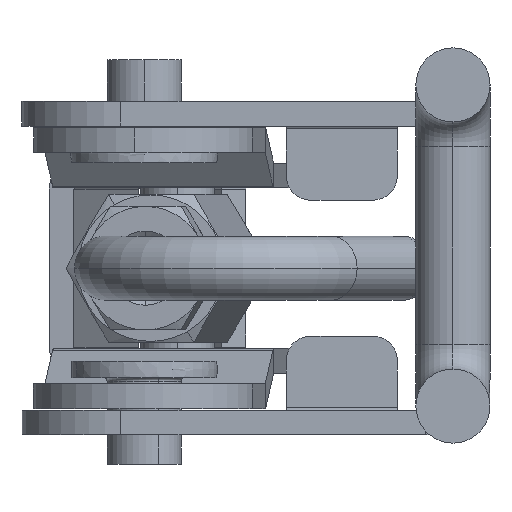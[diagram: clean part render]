
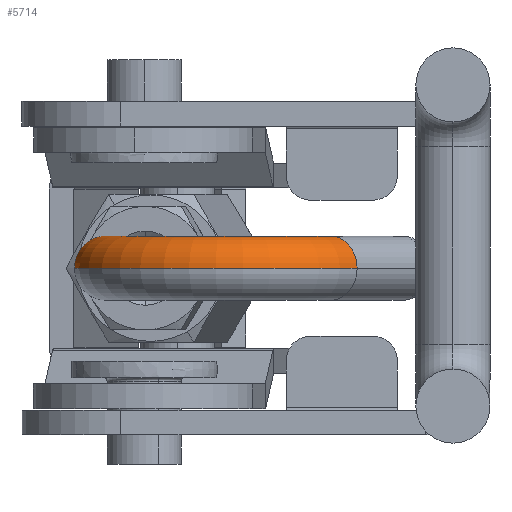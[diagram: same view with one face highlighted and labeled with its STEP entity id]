
A CAD part, left-side view. The second image highlights one B-rep face of the part: STEP entity #5714.
In plain terms, the highlighted toroidal (fillet/blend) face has major radius 10 mm and minor radius 2.6 mm.
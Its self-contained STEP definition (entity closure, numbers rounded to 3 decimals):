
#181 = AXIS2_PLACEMENT_3D ( 'NONE', #5165, #1402, #5813 ) ;
#397 = DIRECTION ( 'NONE',  ( -1., 0., 0. ) ) ;
#529 = CIRCLE ( 'NONE', #4987, 2.6 ) ;
#675 = CARTESIAN_POINT ( 'NONE',  ( 10., 47., 0. ) ) ;
#898 = CARTESIAN_POINT ( 'NONE',  ( 0., 47., -2.6 ) ) ;
#1000 = DIRECTION ( 'NONE',  ( 0.5, -0.866, 0. ) ) ;
#1078 = VERTEX_POINT ( 'NONE', #898 ) ;
#1312 = DIRECTION ( 'NONE',  ( -1., 0., 0. ) ) ;
#1402 = DIRECTION ( 'NONE',  ( 0., 1., 0. ) ) ;
#1524 = CIRCLE ( 'NONE', #6224, 12.6 ) ;
#1651 = VERTEX_POINT ( 'NONE', #3855 ) ;
#1960 = EDGE_CURVE ( 'NONE', #1078, #6969, #2938, .T. ) ;
#2630 = ORIENTED_EDGE ( 'NONE', *, *, #1960, .T. ) ;
#2888 = VERTEX_POINT ( 'NONE', #7296 ) ;
#2926 = ORIENTED_EDGE ( 'NONE', *, *, #6541, .T. ) ;
#2934 = CARTESIAN_POINT ( 'NONE',  ( -2.6, 47., 0. ) ) ;
#2938 = CIRCLE ( 'NONE', #2969, 2.6 ) ;
#2969 = AXIS2_PLACEMENT_3D ( 'NONE', #6547, #7347, #3969 ) ;
#3097 = EDGE_CURVE ( 'NONE', #2888, #1651, #3337, .T. ) ;
#3337 = CIRCLE ( 'NONE', #7637, 7.4 ) ;
#3855 = CARTESIAN_POINT ( 'NONE',  ( 16.409, 50.7, 0. ) ) ;
#3905 = CARTESIAN_POINT ( 'NONE',  ( 10., 47., 0. ) ) ;
#3969 = DIRECTION ( 'NONE',  ( 0., 0., 1. ) ) ;
#4374 = CIRCLE ( 'NONE', #181, 2.6 ) ;
#4755 = CARTESIAN_POINT ( 'NONE',  ( 18.66, 52., 0. ) ) ;
#4765 = VERTEX_POINT ( 'NONE', #6213 ) ;
#4987 = AXIS2_PLACEMENT_3D ( 'NONE', #4755, #1000, #5407 ) ;
#5062 = DIRECTION ( 'NONE',  ( 0., 0., -1. ) ) ;
#5068 = CARTESIAN_POINT ( 'NONE',  ( 10., 47., 0. ) ) ;
#5137 = ORIENTED_EDGE ( 'NONE', *, *, #3097, .F. ) ;
#5165 = CARTESIAN_POINT ( 'NONE',  ( 0., 47., 0. ) ) ;
#5191 = FACE_OUTER_BOUND ( 'NONE', #5917, .T. ) ;
#5407 = DIRECTION ( 'NONE',  ( 0., 0., 1. ) ) ;
#5714 = ADVANCED_FACE ( 'NONE', ( #5191 ), #6878, .T. ) ;
#5733 = DIRECTION ( 'NONE',  ( 0., 0., -1. ) ) ;
#5780 = EDGE_CURVE ( 'NONE', #2888, #1078, #4374, .T. ) ;
#5813 = DIRECTION ( 'NONE',  ( 0., 0., 1. ) ) ;
#5917 = EDGE_LOOP ( 'NONE', ( #2630, #2926, #6728, #5137, #7709 ) ) ;
#6213 = CARTESIAN_POINT ( 'NONE',  ( 20.912, 53.3, 0. ) ) ;
#6224 = AXIS2_PLACEMENT_3D ( 'NONE', #675, #5062, #1312 ) ;
#6270 = AXIS2_PLACEMENT_3D ( 'NONE', #5068, #5733, #6358 ) ;
#6358 = DIRECTION ( 'NONE',  ( -1., 0., 0. ) ) ;
#6419 = DIRECTION ( 'NONE',  ( 0., 0., -1. ) ) ;
#6541 = EDGE_CURVE ( 'NONE', #6969, #4765, #1524, .T. ) ;
#6547 = CARTESIAN_POINT ( 'NONE',  ( 0., 47., 0. ) ) ;
#6728 = ORIENTED_EDGE ( 'NONE', *, *, #7819, .F. ) ;
#6878 = TOROIDAL_SURFACE ( 'NONE', #6270, 10., 2.6 ) ;
#6969 = VERTEX_POINT ( 'NONE', #2934 ) ;
#7296 = CARTESIAN_POINT ( 'NONE',  ( 2.6, 47., 0. ) ) ;
#7347 = DIRECTION ( 'NONE',  ( 0., 1., 0. ) ) ;
#7637 = AXIS2_PLACEMENT_3D ( 'NONE', #3905, #6419, #397 ) ;
#7709 = ORIENTED_EDGE ( 'NONE', *, *, #5780, .T. ) ;
#7819 = EDGE_CURVE ( 'NONE', #1651, #4765, #529, .T. ) ;
